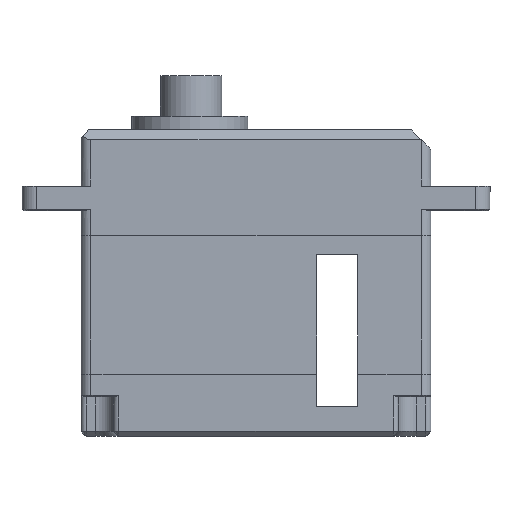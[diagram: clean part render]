
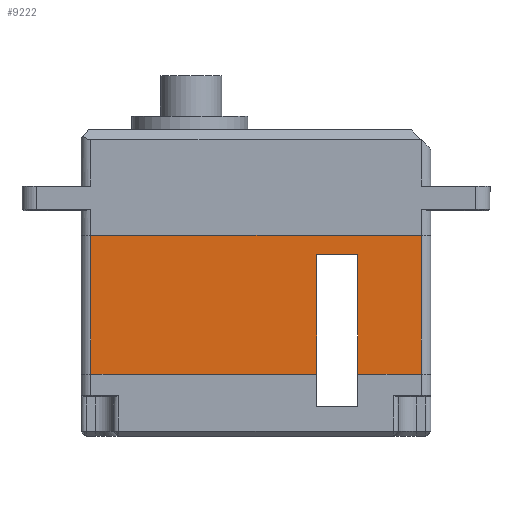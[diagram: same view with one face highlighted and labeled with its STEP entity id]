
A CAD part, front view. The second image highlights one B-rep face of the part: STEP entity #9222.
In plain terms, the highlighted planar face has unit normal (0, -1, 0).
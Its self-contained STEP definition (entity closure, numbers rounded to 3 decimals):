
#10 = CARTESIAN_POINT ( 'NONE',  ( 16.55, -13.8, -0.25 ) ) ;
#175 = CARTESIAN_POINT ( 'NONE',  ( 16.55, -13.8, -15.2 ) ) ;
#215 = DIRECTION ( 'NONE',  ( 0., 0., 1. ) ) ;
#604 = LINE ( 'NONE', #10, #11578 ) ;
#1117 = EDGE_CURVE ( 'NONE', #2312, #8076, #2156, .T. ) ;
#1128 = DIRECTION ( 'NONE',  ( 0., 1., 0. ) ) ;
#1163 = AXIS2_PLACEMENT_3D ( 'NONE', #175, #1128, #5641 ) ;
#1453 = EDGE_CURVE ( 'NONE', #8076, #8005, #604, .T. ) ;
#1752 = CARTESIAN_POINT ( 'NONE',  ( 22.7, -13.8, -15.2 ) ) ;
#1762 = DIRECTION ( 'NONE',  ( -1., 0., 0. ) ) ;
#2156 = LINE ( 'NONE', #7396, #8532 ) ;
#2274 = EDGE_CURVE ( 'NONE', #2851, #9698, #6772, .T. ) ;
#2312 = VERTEX_POINT ( 'NONE', #2673 ) ;
#2673 = CARTESIAN_POINT ( 'NONE',  ( 26.9, -13.8, -12.4 ) ) ;
#2851 = VERTEX_POINT ( 'NONE', #6048 ) ;
#2952 = PLANE ( 'NONE',  #1163 ) ;
#3143 = DIRECTION ( 'NONE',  ( 0., 0., -1. ) ) ;
#3194 = EDGE_CURVE ( 'NONE', #5092, #2312, #9318, .T. ) ;
#3407 = VECTOR ( 'NONE', #3962, 1000. ) ;
#3466 = ORIENTED_EDGE ( 'NONE', *, *, #3194, .F. ) ;
#3637 = CARTESIAN_POINT ( 'NONE',  ( 16.55, -13.8, -12.4 ) ) ;
#3962 = DIRECTION ( 'NONE',  ( 0., 0., 1. ) ) ;
#4154 = VECTOR ( 'NONE', #3143, 1000. ) ;
#4220 = EDGE_CURVE ( 'NONE', #9698, #5092, #7114, .T. ) ;
#4581 = ORIENTED_EDGE ( 'NONE', *, *, #11456, .F. ) ;
#4826 = CARTESIAN_POINT ( 'NONE',  ( 22.7, -13.8, -0.25 ) ) ;
#4876 = CARTESIAN_POINT ( 'NONE',  ( -0.2, -13.8, -15.2 ) ) ;
#5078 = CARTESIAN_POINT ( 'NONE',  ( 33.3, -13.8, -15.2 ) ) ;
#5092 = VERTEX_POINT ( 'NONE', #5590 ) ;
#5242 = EDGE_LOOP ( 'NONE', ( #6370, #10322, #9361, #4581, #9136, #9357, #3466, #8510 ) ) ;
#5375 = VECTOR ( 'NONE', #7002, 1000. ) ;
#5521 = DIRECTION ( 'NONE',  ( 0., 0., -1. ) ) ;
#5590 = CARTESIAN_POINT ( 'NONE',  ( 33.3, -13.8, -12.4 ) ) ;
#5641 = DIRECTION ( 'NONE',  ( 0., 0., 1. ) ) ;
#5821 = VERTEX_POINT ( 'NONE', #8461 ) ;
#6048 = CARTESIAN_POINT ( 'NONE',  ( -0.2, -13.8, 1.7 ) ) ;
#6205 = EDGE_CURVE ( 'NONE', #7880, #5821, #10067, .T. ) ;
#6207 = DIRECTION ( 'NONE',  ( 1., 0., 0. ) ) ;
#6370 = ORIENTED_EDGE ( 'NONE', *, *, #2274, .F. ) ;
#6772 = LINE ( 'NONE', #10617, #9298 ) ;
#6804 = LINE ( 'NONE', #4876, #3407 ) ;
#7002 = DIRECTION ( 'NONE',  ( -1., 0., 0. ) ) ;
#7114 = LINE ( 'NONE', #5078, #4154 ) ;
#7396 = CARTESIAN_POINT ( 'NONE',  ( 26.9, -13.8, -15.2 ) ) ;
#7563 = VECTOR ( 'NONE', #1762, 1000. ) ;
#7880 = VERTEX_POINT ( 'NONE', #8242 ) ;
#8005 = VERTEX_POINT ( 'NONE', #4826 ) ;
#8076 = VERTEX_POINT ( 'NONE', #10306 ) ;
#8242 = CARTESIAN_POINT ( 'NONE',  ( 22.7, -13.8, -12.4 ) ) ;
#8281 = LINE ( 'NONE', #1752, #10809 ) ;
#8461 = CARTESIAN_POINT ( 'NONE',  ( -0.2, -13.8, -12.4 ) ) ;
#8510 = ORIENTED_EDGE ( 'NONE', *, *, #4220, .F. ) ;
#8532 = VECTOR ( 'NONE', #215, 1000. ) ;
#8702 = EDGE_CURVE ( 'NONE', #5821, #2851, #6804, .T. ) ;
#9136 = ORIENTED_EDGE ( 'NONE', *, *, #1453, .F. ) ;
#9222 = ADVANCED_FACE ( 'NONE', ( #10719 ), #2952, .F. ) ;
#9298 = VECTOR ( 'NONE', #6207, 1000. ) ;
#9318 = LINE ( 'NONE', #10379, #5375 ) ;
#9357 = ORIENTED_EDGE ( 'NONE', *, *, #1117, .F. ) ;
#9361 = ORIENTED_EDGE ( 'NONE', *, *, #6205, .F. ) ;
#9698 = VERTEX_POINT ( 'NONE', #10763 ) ;
#10067 = LINE ( 'NONE', #3637, #7563 ) ;
#10306 = CARTESIAN_POINT ( 'NONE',  ( 26.9, -13.8, -0.25 ) ) ;
#10322 = ORIENTED_EDGE ( 'NONE', *, *, #8702, .F. ) ;
#10379 = CARTESIAN_POINT ( 'NONE',  ( 16.55, -13.8, -12.4 ) ) ;
#10617 = CARTESIAN_POINT ( 'NONE',  ( 16.55, -13.8, 1.7 ) ) ;
#10719 = FACE_OUTER_BOUND ( 'NONE', #5242, .T. ) ;
#10763 = CARTESIAN_POINT ( 'NONE',  ( 33.3, -13.8, 1.7 ) ) ;
#10809 = VECTOR ( 'NONE', #5521, 1000. ) ;
#11456 = EDGE_CURVE ( 'NONE', #8005, #7880, #8281, .T. ) ;
#11578 = VECTOR ( 'NONE', #11626, 1000. ) ;
#11626 = DIRECTION ( 'NONE',  ( -1., 0., 0. ) ) ;
